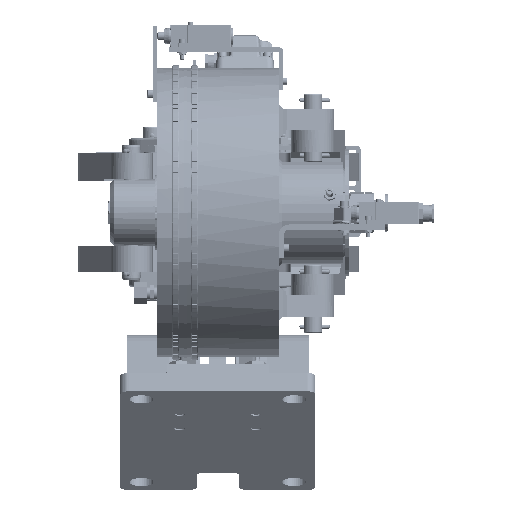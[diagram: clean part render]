
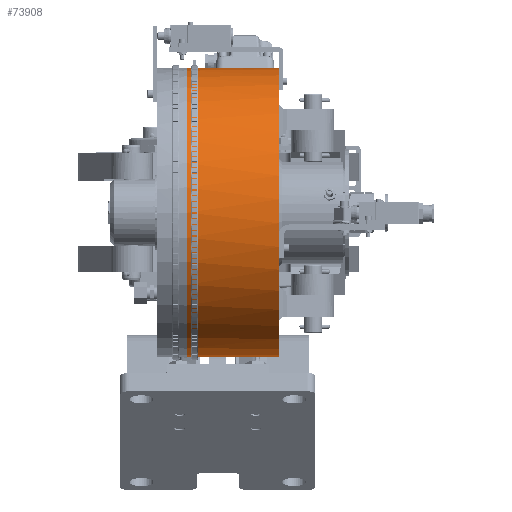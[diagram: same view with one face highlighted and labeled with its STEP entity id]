
A CAD part, front view. The second image highlights one B-rep face of the part: STEP entity #73908.
In plain terms, the highlighted cylindrical face has radius 170 mm (diameter 340 mm), a partial arc.
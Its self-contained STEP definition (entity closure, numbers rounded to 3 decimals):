
#1934=CARTESIAN_POINT('',(110.,0.277,-0.101));
#1935=DIRECTION('',(1.,0.,0.));
#1936=DIRECTION('',(0.,-0.147,0.989));
#1937=AXIS2_PLACEMENT_3D('',#1934,#1935,#1936);
#3606=CARTESIAN_POINT('',(110.,0.277,-0.101));
#3607=DIRECTION('',(-1.,0.,0.));
#3608=DIRECTION('',(0.,-0.147,0.989));
#3609=AXIS2_PLACEMENT_3D('',#3606,#3607,#3608);
#3629=DIRECTION('',(1.,0.,0.));
#3630=VECTOR('',#3629,108.);
#3631=CARTESIAN_POINT('',(2.,0.277,
-170.101));
#3632=LINE('',#3631,#3630);
#3636=DIRECTION('',(1.,0.,0.));
#3637=VECTOR('',#3636,108.);
#3638=CARTESIAN_POINT('',(2.,0.277,169.899));
#3639=LINE('',#3638,#3637);
#3681=CARTESIAN_POINT('',(2.,0.277,
-0.101));
#3682=DIRECTION('',(-1.,0.,0.));
#3683=DIRECTION('',(0.,0.,-1.));
#3684=AXIS2_PLACEMENT_3D('',#3681,#3682,#3683);
#65258=CARTESIAN_POINT('',(2.,0.277,
-170.101));
#65259=CARTESIAN_POINT('',(2.,0.277,
169.899));
#65260=VERTEX_POINT('',#65258);
#65261=VERTEX_POINT('',#65259);
#65277=CARTESIAN_POINT('',(110.,0.277,-170.101));
#65278=VERTEX_POINT('',#65277);
#65308=CARTESIAN_POINT('',(110.,-24.723,168.051));
#65309=VERTEX_POINT('',#65308);
#65310=CARTESIAN_POINT('',(110.,0.277,169.899));
#65311=VERTEX_POINT('',#65310);
#73893=CARTESIAN_POINT('',(-81.937,0.277,
-0.101));
#73894=DIRECTION('',(-1.,0.,0.));
#73895=DIRECTION('',(0.,0.,1.));
#73896=AXIS2_PLACEMENT_3D('',#73893,#73894,#73895);
#73897=CYLINDRICAL_SURFACE('',#73896,170.);
#73898=ORIENTED_EDGE('',*,*,#73876,.F.);
#73899=ORIENTED_EDGE('',*,*,#72280,.T.);
#73901=ORIENTED_EDGE('',*,*,#73900,.F.);
#73903=ORIENTED_EDGE('',*,*,#73902,.T.);
#73905=ORIENTED_EDGE('',*,*,#73904,.T.);
#73906=EDGE_LOOP('',(#73898,#73899,#73901,#73903,#73905));
#73907=FACE_OUTER_BOUND('',#73906,.F.);
#1938=CIRCLE('',#1937,170.);
#3610=CIRCLE('',#3609,170.);
#3685=CIRCLE('',#3684,170.);
#72280=EDGE_CURVE('',#65309,#65278,#1938,.T.);
#73876=EDGE_CURVE('',#65309,#65311,#3610,.T.);
#73900=EDGE_CURVE('',#65260,#65278,#3632,.T.);
#73902=EDGE_CURVE('',#65260,#65261,#3685,.T.);
#73904=EDGE_CURVE('',#65261,#65311,#3639,.T.);
#73908=ADVANCED_FACE('',(#73907),#73897,.T.);
